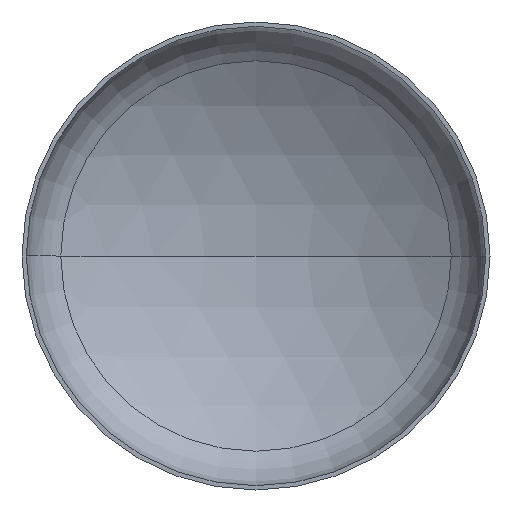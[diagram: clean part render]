
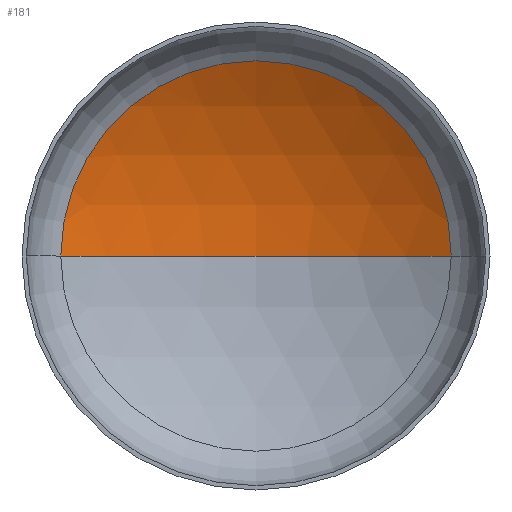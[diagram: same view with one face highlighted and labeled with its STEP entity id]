
A CAD part, front view. The second image highlights one B-rep face of the part: STEP entity #181.
In plain terms, the highlighted spherical face has radius 1040 mm.
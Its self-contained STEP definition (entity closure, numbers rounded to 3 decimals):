
#6 = AXIS2_PLACEMENT_3D ( 'NONE', #110, #148, #151 ) ;
#9 = DIRECTION ( 'NONE',  ( -1., 0., 0. ) ) ;
#17 = EDGE_LOOP ( 'NONE', ( #25, #19, #104 ) ) ;
#19 = ORIENTED_EDGE ( 'NONE', *, *, #386, .T. ) ;
#25 = ORIENTED_EDGE ( 'NONE', *, *, #397, .F. ) ;
#63 = AXIS2_PLACEMENT_3D ( 'NONE', #409, #192, #9 ) ;
#93 = VERTEX_POINT ( 'NONE', #244 ) ;
#104 = ORIENTED_EDGE ( 'NONE', *, *, #361, .T. ) ;
#110 = CARTESIAN_POINT ( 'NONE',  ( 0., 210.659, 0. ) ) ;
#117 = VERTEX_POINT ( 'NONE', #327 ) ;
#127 = DIRECTION ( 'NONE',  ( 0., 0., -1. ) ) ;
#128 = CARTESIAN_POINT ( 'NONE',  ( 0., -676.768, 0. ) ) ;
#148 = DIRECTION ( 'NONE',  ( 0., -1., 0. ) ) ;
#151 = DIRECTION ( 'NONE',  ( 1., 0., 0. ) ) ;
#161 = CARTESIAN_POINT ( 'NONE',  ( 0., -676.768, 0. ) ) ;
#163 = DIRECTION ( 'NONE',  ( 0., 0., 1. ) ) ;
#178 = CIRCLE ( 'NONE', #248, 1040. ) ;
#179 = CARTESIAN_POINT ( 'NONE',  ( -542.286, 210.659, 0. ) ) ;
#181 = ADVANCED_FACE ( 'NONE', ( #246 ), #312, .F. ) ;
#192 = DIRECTION ( 'NONE',  ( 0., 0., -1. ) ) ;
#235 = AXIS2_PLACEMENT_3D ( 'NONE', #128, #127, #302 ) ;
#244 = CARTESIAN_POINT ( 'NONE',  ( 0., 363.232, 0. ) ) ;
#246 = FACE_OUTER_BOUND ( 'NONE', #17, .T. ) ;
#248 = AXIS2_PLACEMENT_3D ( 'NONE', #161, #163, #377 ) ;
#291 = VERTEX_POINT ( 'NONE', #179 ) ;
#302 = DIRECTION ( 'NONE',  ( -1., 0., 0. ) ) ;
#312 = SPHERICAL_SURFACE ( 'NONE', #63, 1040. ) ;
#314 = CIRCLE ( 'NONE', #235, 1040. ) ;
#327 = CARTESIAN_POINT ( 'NONE',  ( 542.286, 210.659, 0. ) ) ;
#361 = EDGE_CURVE ( 'NONE', #117, #291, #393, .T. ) ;
#377 = DIRECTION ( 'NONE',  ( 1., 0., 0. ) ) ;
#386 = EDGE_CURVE ( 'NONE', #93, #117, #314, .T. ) ;
#393 = CIRCLE ( 'NONE', #6, 542.286 ) ;
#397 = EDGE_CURVE ( 'NONE', #93, #291, #178, .T. ) ;
#409 = CARTESIAN_POINT ( 'NONE',  ( 0., -676.768, 0. ) ) ;
